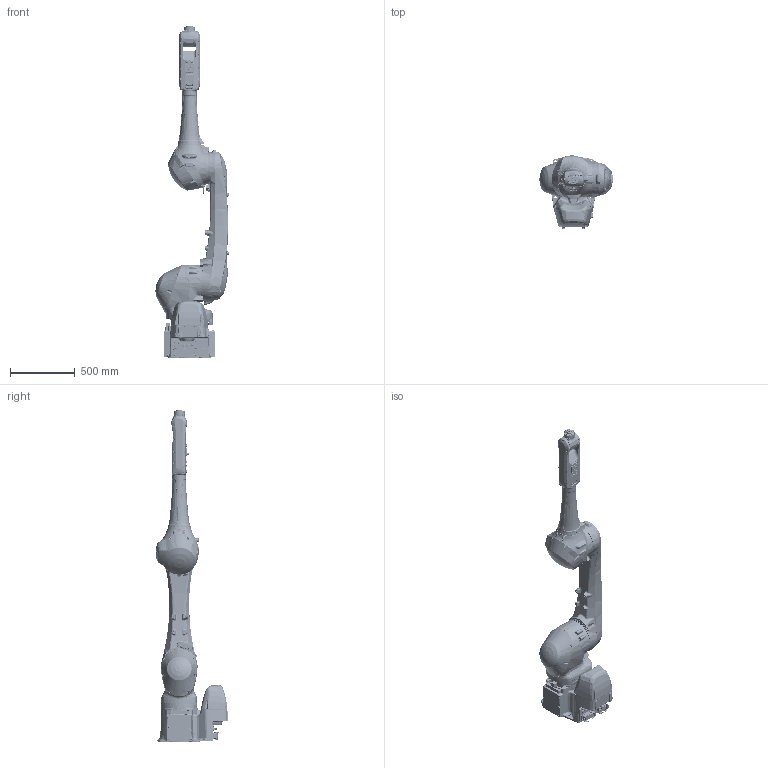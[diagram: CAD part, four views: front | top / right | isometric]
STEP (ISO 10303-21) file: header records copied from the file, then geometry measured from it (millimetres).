
FILE_DESCRIPTION(('CATIA V5 STEP Exchange'),'2;1');
FILE_NAME('D:\モデリング\☆☆☆STEP\RS\RS025N-A_catia\軽量化_STEP\Part\Part\RS025N-AC01.stp','2021-09-03T00:14:00+00:00',('none'),('none'),'CATIA Version 5-6 Release 2016 SP6 HF14','CATIA V5 STEP AP203','none');
FILE_SCHEMA(('CONFIG_CONTROL_DESIGN'));
Length unit declared in the file: millimetre
Products named in the file (1): RS025N-AC01
Assembly tree (7 placements, depth 2):
  RS025N-AC01
    #57
    #105947
    #135866
    #204800
    #234011
    #294637
    #311627
Bounding box: 565.09 x 562.68 x 2565 mm (x, y, z)
Volume: 138238755 mm3; surface area: 3480361.2 mm2
Topology: 8 solids, 8 shells, 6397 faces, 15948 edges, 9740 vertices
Faces by surface type: plane 1860, cylinder 1766, bspline 1721, cone 550, torus 317, revolution 103, sphere 55, extrusion 25
Entity records: 312510 total; most frequent: CARTESIAN_POINT 184995, ORIENTED_EDGE 31382, DIRECTION 16493, EDGE_CURVE 15691, VERTEX_POINT 9740, AXIS2_PLACEMENT_3D 7907, EDGE_LOOP 6919, B_SPLINE_CURVE_WITH_KNOTS 6812
